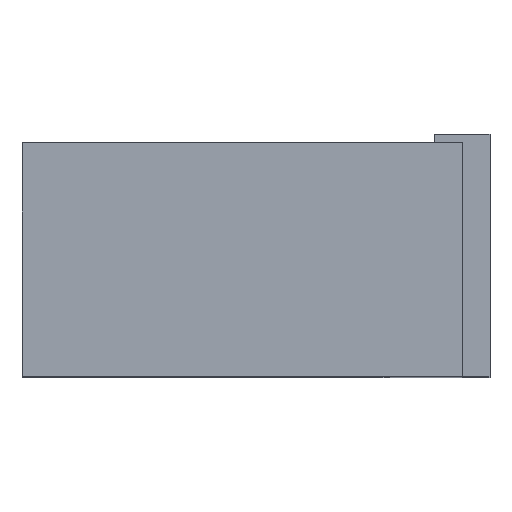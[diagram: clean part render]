
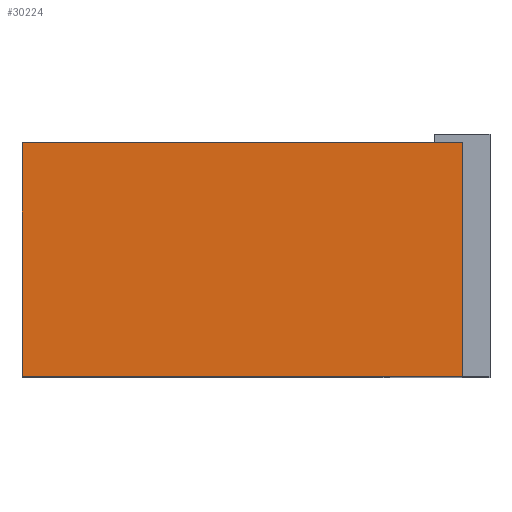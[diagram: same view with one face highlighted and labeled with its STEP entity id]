
A CAD part, top view. The second image highlights one B-rep face of the part: STEP entity #30224.
In plain terms, the highlighted planar face has unit normal (0, 0, 1) as drawn and (-1, 0, 0) by its records, which use the part's own axes.
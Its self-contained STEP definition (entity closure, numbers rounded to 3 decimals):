
#5000=FACE_OUTER_BOUND('',#6653,.T.);
#6653=EDGE_LOOP('',(#20959,#20960,#20961,#20962));
#8437=LINE('',#44664,#11245);
#8440=LINE('',#44670,#11248);
#8444=LINE('',#44678,#11252);
#8445=LINE('',#44680,#11253);
#11245=VECTOR('',#35755,0.394);
#11248=VECTOR('',#35760,0.394);
#11252=VECTOR('',#35768,0.394);
#11253=VECTOR('',#35771,0.394);
#14034=VERTEX_POINT('',#44657);
#14037=VERTEX_POINT('',#44662);
#14039=VERTEX_POINT('',#44668);
#14041=VERTEX_POINT('',#44676);
#16731=EDGE_CURVE('',#14037,#14034,#8437,.T.);
#16734=EDGE_CURVE('',#14037,#14039,#8440,.T.);
#16738=EDGE_CURVE('',#14039,#14041,#8444,.T.);
#16739=EDGE_CURVE('',#14034,#14041,#8445,.T.);
#20959=ORIENTED_EDGE('',*,*,#16734,.T.);
#20960=ORIENTED_EDGE('',*,*,#16738,.T.);
#20961=ORIENTED_EDGE('',*,*,#16739,.F.);
#20962=ORIENTED_EDGE('',*,*,#16731,.F.);
#29209=PLANE('',#32650);
#30224=ADVANCED_FACE('',(#5000),#29209,.T.);
#32650=AXIS2_PLACEMENT_3D('',#44679,#35769,#35770);
#35755=DIRECTION('',(0.,1.,0.));
#35760=DIRECTION('',(0.,0.,1.));
#35768=DIRECTION('',(0.,1.,0.));
#35769=DIRECTION('center_axis',(-1.,0.,0.));
#35770=DIRECTION('ref_axis',(0.,0.,1.));
#35771=DIRECTION('',(0.,0.,1.));
#44657=CARTESIAN_POINT('',(0.,42.,-79.));
#44662=CARTESIAN_POINT('',(0.,0.,-79.));
#44664=CARTESIAN_POINT('',(0.,0.,-79.));
#44668=CARTESIAN_POINT('',(0.,0.,0.));
#44670=CARTESIAN_POINT('',(0.,0.,-79.));
#44676=CARTESIAN_POINT('',(0.,42.,0.));
#44678=CARTESIAN_POINT('',(0.,0.,0.));
#44679=CARTESIAN_POINT('Origin',(0.,0.,-79.));
#44680=CARTESIAN_POINT('',(0.,42.,-79.));
